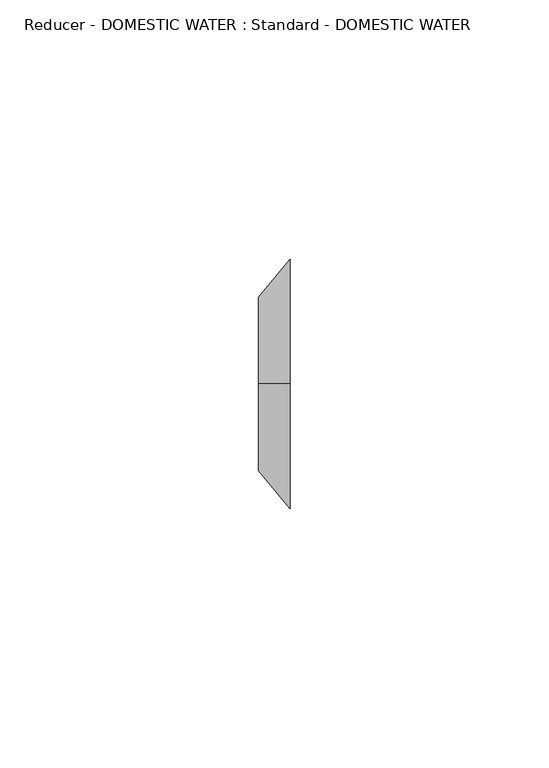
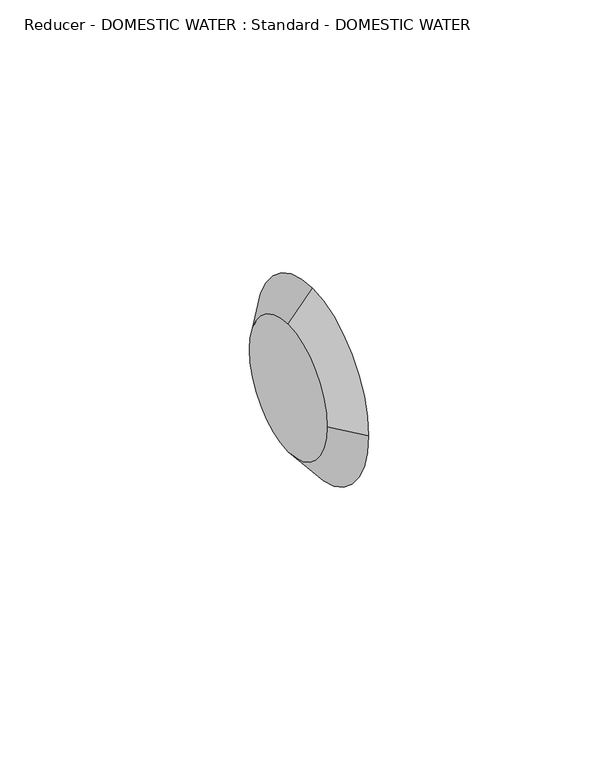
"""IFC4 building model written with IfcOpenShell, lengths in millimetres: pipe fitting geometry, Reducer - DOMESTIC WATER : Standard - DOMESTIC WATER."""

from ifc_helpers import new_model, si_unit, frame, origin, place, context, project, spatial, polyline, circle_curve, source, transform, mapped, element, save
from ifc_brep_helpers import plane_surface, revolved_surface, advanced_brep


def reducer_domestic_water_standard_domestic_water_f34aa0c5(model_context):
    return source(origin(), model_context, "Body", "AdvancedBrep", [
        advanced_brep(
        [(6.0325, 0.0, 24.13), (6.0325, -24.13, 0.0), (6.0325, 0.0, -24.13), (6.0325, 24.13, 0.0), (0.0, 0.0, 16.7005), (0.0, 16.7005, 0.0), (0.0, 0.0, -16.7005), (0.0, -16.7005, 0.0)],
        [
            (0, 1, circle_curve(frame((6.0325, 0.0, 0.0), z_axis=(1.0, 0.0, 0.0), x_axis=(0.0, 0.0, 1.0)), 24.13)),
            (1, 2, circle_curve(frame((6.0325, 0.0, 0.0), z_axis=(1.0, 0.0, 0.0), x_axis=(0.0, -1.0, 0.0)), 24.13)),
            (2, 3, circle_curve(frame((6.0325, 0.0, 0.0), z_axis=(1.0, 0.0, 0.0), x_axis=(0.0, 0.0, -1.0)), 24.13)),
            (3, 0, circle_curve(frame((6.0325, 0.0, 0.0), z_axis=(1.0, 0.0, 0.0), x_axis=(0.0, 1.0, 0.0)), 24.13)),
            (4, 5, circle_curve(frame((0.0, 0.0, 0.0), z_axis=(-1.0, 0.0, 0.0), x_axis=(0.0, 1.0, 0.0)), 16.7005)),
            (5, 6, circle_curve(frame((0.0, 0.0, 0.0), z_axis=(-1.0, 0.0, 0.0), x_axis=(0.0, 0.0, -1.0)), 16.7005)),
            (6, 7, circle_curve(frame((0.0, 0.0, 0.0), z_axis=(-1.0, 0.0, 0.0), x_axis=(0.0, -1.0, 0.0)), 16.7005)),
            (7, 4, circle_curve(frame((0.0, 0.0, 0.0), z_axis=(-1.0, 0.0, 0.0), x_axis=(0.0, 0.0, 1.0)), 16.7005)),
            (7, 1),
            (0, 4),
            (6, 2),
            (5, 3),
        ],
        [
            plane_surface(frame((6.0325, 0.0, 0.0), z_axis=(1.0, 0.0, 0.0), x_axis=(0.0, -1.0, 0.0))),
            plane_surface(frame((0.0, 0.0, 0.0), z_axis=(-1.0, 0.0, 0.0), x_axis=(0.0, -1.0, 0.0))),
            revolved_surface(polyline([(0.0, -16.700499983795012, 0.0), (6.032500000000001, -24.13, 0.0)]), (-13.560235, 0.0, 0.0), (1.0, 0.0, 0.0)),
            revolved_surface(polyline([(0.0, 0.0, -16.700499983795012), (6.032500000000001, 0.0, -24.13)]), (-13.560235, 0.0, 0.0), (1.0, 0.0, 0.0)),
            revolved_surface(polyline([(0.0, 16.700499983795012, 0.0), (6.032500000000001, 24.13, 0.0)]), (-13.560235, 0.0, 0.0), (1.0, 0.0, 0.0)),
            revolved_surface(polyline([(0.0, 0.0, 16.700499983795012), (6.032500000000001, 0.0, 24.13)]), (-13.560235, 0.0, 0.0), (1.0, 0.0, 0.0)),
        ],
        [
            (0, [[1, 2, 3, 4]]),
            (1, [[5, 6, 7, 8]]),
            (2, [[-8, 9, -1, 10]]),
            (3, [[-7, 11, -2, -9]]),
            (4, [[-6, 12, -3, -11]]),
            (5, [[-5, -10, -4, -12]]),
        ],
    ),
        advanced_brep(
        [(6.0325, 0.0, 24.13), (6.0325, -24.13, 0.0), (6.0325, 0.0, -24.13), (6.0325, 24.13, 0.0), (0.0, 0.0, 16.7005), (0.0, 16.7005, 0.0), (0.0, 0.0, -16.7005), (0.0, -16.7005, 0.0)],
        [
            (0, 1, circle_curve(frame((6.0325, 0.0, 0.0), z_axis=(1.0, 0.0, -1.317455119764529e-12), x_axis=(1.3174225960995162e-12, 0.0, 1.0)), 24.13)),
            (1, 2, circle_curve(frame((6.0325, 0.0, 0.0), z_axis=(1.0, 0.0, -1.2613596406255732e-12), x_axis=(0.0, -1.0, 0.0)), 24.13)),
            (2, 3, circle_curve(frame((6.0325, 0.0, 0.0), z_axis=(1.0, 0.0, -2.067877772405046e-12), x_axis=(-2.0679473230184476e-12, 0.0, -1.0)), 24.13)),
            (3, 0, circle_curve(frame((6.0325, 0.0, 0.0), z_axis=(1.0, 0.0, 0.0), x_axis=(0.0, 1.0, 0.0)), 24.13)),
            (4, 5, circle_curve(frame((0.0, 0.0, 0.0), z_axis=(-1.0, 0.0, 0.0), x_axis=(0.0, 1.0, 0.0)), 16.7005)),
            (5, 6, circle_curve(frame((0.0, 0.0, 0.0), z_axis=(-1.0, 0.0, 2.067877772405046e-12), x_axis=(-2.0679473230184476e-12, 0.0, -1.0)), 16.7005)),
            (6, 7, circle_curve(frame((0.0, 0.0, 0.0), z_axis=(-1.0, 0.0, 1.2613596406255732e-12), x_axis=(0.0, -1.0, 0.0)), 16.7005)),
            (7, 4, circle_curve(frame((0.0, 0.0, 0.0), z_axis=(-1.0, 0.0, 1.317455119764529e-12), x_axis=(1.3174225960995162e-12, 0.0, 1.0)), 16.7005)),
            (7, 1),
            (0, 4),
            (6, 2),
            (5, 3),
        ],
        [
            plane_surface(frame((6.0325, 0.0, 0.0), z_axis=(1.0, 0.0, 0.0), x_axis=(0.0, -1.0, 0.0))),
            plane_surface(frame((0.0, 0.0, 0.0), z_axis=(-1.0, 0.0, 0.0), x_axis=(0.0, -1.0, 0.0))),
            revolved_surface(polyline([(-2.2001955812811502e-11, -16.700499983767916, 0.0), (6.032500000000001, -24.13, 0.0)]), (-13.560235, 0.0, 0.0), (1.0, 0.0, -1.317455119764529e-12)),
            revolved_surface(polyline([(-2.106403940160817e-11, 0.0, -16.70049998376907), (6.032500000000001, 0.0, -24.13)]), (-13.560235, 0.0, 0.0), (1.0, 0.0, -1.2613596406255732e-12)),
            revolved_surface(polyline([(0.0, 16.700499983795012, 0.0), (6.032500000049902, 24.130000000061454, 0.0)]), (-13.560235, 0.0, 0.0), (1.0, 0.0, -2.067877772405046e-12)),
            revolved_surface(polyline([(0.0, 0.0, 16.700499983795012), (6.032500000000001, 0.0, 24.13)]), (-13.560235, 0.0, 0.0), (1.0, 0.0, 0.0)),
        ],
        [
            (0, [[1, 2, 3, 4]]),
            (1, [[5, 6, 7, 8]]),
            (2, [[-8, 9, -1, 10]]),
            (3, [[-7, 11, -2, -9]]),
            (4, [[-6, 12, -3, -11]]),
            (5, [[-5, -10, -4, -12]]),
        ],
    ),
    ])


if __name__ == "__main__":
    model = new_model("IFC4")
    model_context = context("Model", 3, world=origin())
    ifc_project = project(units=[si_unit("LENGTHUNIT", "METRE", prefix="MILLI")], contexts=[model_context])
    site = spatial("IfcSite", under=ifc_project)
    building = spatial("IfcBuilding", under=site)
    placement = place(None, origin())
    reducer_domestic_water_standard_domestic_water_shape = reducer_domestic_water_standard_domestic_water_f34aa0c5(model_context)
    element("IfcPipeFitting", 1, ObjectType="Reducer - DOMESTIC WATER : Standard - DOMESTIC WATER", at=placement, inside=building, context=model_context, shape_type="MappedRepresentation", body=[
        mapped(reducer_domestic_water_standard_domestic_water_shape, transform((0.0, 0.0, 0.0), x_axis=(1.0, 0.0, 0.0), y_axis=(0.0, 1.0, 0.0), z_axis=(0.0, 0.0, 1.0))),
    ])
    save(model, "model.ifc")
